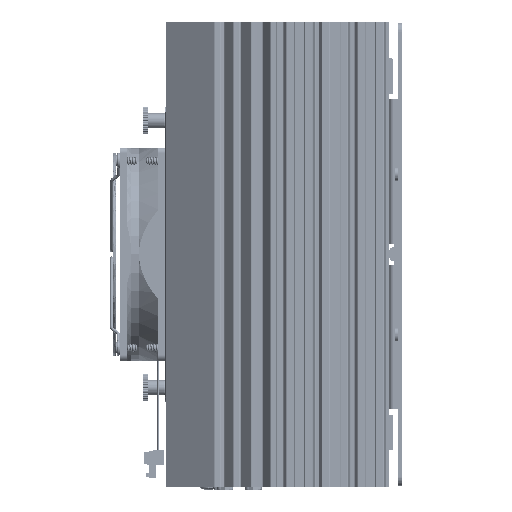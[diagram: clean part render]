
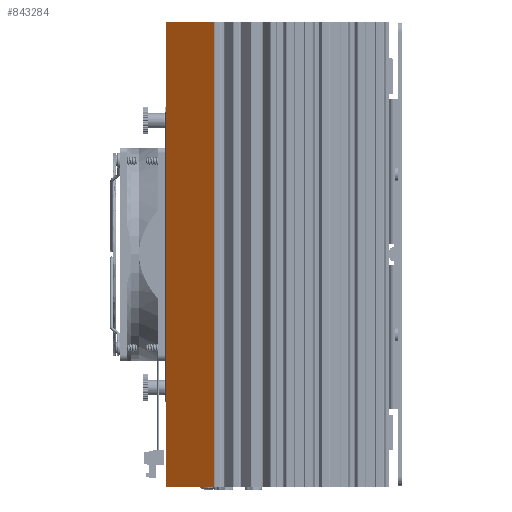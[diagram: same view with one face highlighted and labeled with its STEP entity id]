
A CAD part, left-side view. The second image highlights one B-rep face of the part: STEP entity #843284.
In plain terms, the highlighted planar face has unit normal (-0.819, 0.574, 0).
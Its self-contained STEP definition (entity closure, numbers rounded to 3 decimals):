
#112416 = DIRECTION ( 'NONE',  ( -0.574, -0.819, 0. ) ) ;
#119748 = CARTESIAN_POINT ( 'NONE',  ( -113.398, -7.532, 130.5 ) ) ;
#134517 = VERTEX_POINT ( 'NONE', #420289 ) ;
#154014 = DIRECTION ( 'NONE',  ( 0.574, 0.819, 0. ) ) ;
#170142 = VERTEX_POINT ( 'NONE', #119748 ) ;
#174217 = VECTOR ( 'NONE', #374042, 1000. ) ;
#188758 = LINE ( 'NONE', #504450, #415528 ) ;
#190779 = EDGE_CURVE ( 'NONE', #134517, #716517, #855185, .T. ) ;
#230375 = EDGE_LOOP ( 'NONE', ( #498601, #415186, #720326, #370817 ) ) ;
#243515 = AXIS2_PLACEMENT_3D ( 'NONE', #433995, #548949, #154014 ) ;
#370817 = ORIENTED_EDGE ( 'NONE', *, *, #190779, .T. ) ;
#372479 = LINE ( 'NONE', #639734, #795325 ) ;
#374042 = DIRECTION ( 'NONE',  ( -0.574, -0.819, 0. ) ) ;
#415186 = ORIENTED_EDGE ( 'NONE', *, *, #844915, .T. ) ;
#415528 = VECTOR ( 'NONE', #112416, 1000. ) ;
#416135 = FACE_OUTER_BOUND ( 'NONE', #230375, .T. ) ;
#420289 = CARTESIAN_POINT ( 'NONE',  ( -94.42, 19.571, 130.5 ) ) ;
#433995 = CARTESIAN_POINT ( 'NONE',  ( -94.26, 19.8, 130.5 ) ) ;
#481346 = EDGE_CURVE ( 'NONE', #134517, #170142, #188758, .T. ) ;
#482841 = PLANE ( 'NONE',  #243515 ) ;
#488945 = EDGE_CURVE ( 'NONE', #716517, #662764, #617577, .T. ) ;
#498601 = ORIENTED_EDGE ( 'NONE', *, *, #488945, .T. ) ;
#504450 = CARTESIAN_POINT ( 'NONE',  ( -94.26, 19.8, 130.5 ) ) ;
#548949 = DIRECTION ( 'NONE',  ( 0.819, -0.574, 0. ) ) ;
#617577 = LINE ( 'NONE', #772050, #174217 ) ;
#628485 = CARTESIAN_POINT ( 'NONE',  ( -94.42, 19.571, 130.5 ) ) ;
#639734 = CARTESIAN_POINT ( 'NONE',  ( -113.398, -7.532, 130.5 ) ) ;
#662764 = VERTEX_POINT ( 'NONE', #834683 ) ;
#679676 = VECTOR ( 'NONE', #697661, 1000. ) ;
#697661 = DIRECTION ( 'NONE',  ( 0., 0., -1. ) ) ;
#703184 = DIRECTION ( 'NONE',  ( 0., 0., 1. ) ) ;
#716517 = VERTEX_POINT ( 'NONE', #803400 ) ;
#720326 = ORIENTED_EDGE ( 'NONE', *, *, #481346, .F. ) ;
#772050 = CARTESIAN_POINT ( 'NONE',  ( -94.26, 19.8, -130.5 ) ) ;
#795325 = VECTOR ( 'NONE', #703184, 1000. ) ;
#803400 = CARTESIAN_POINT ( 'NONE',  ( -94.42, 19.571, -130.5 ) ) ;
#834683 = CARTESIAN_POINT ( 'NONE',  ( -113.398, -7.532, -130.5 ) ) ;
#843284 = ADVANCED_FACE ( 'NONE', ( #416135 ), #482841, .F. ) ;
#844915 = EDGE_CURVE ( 'NONE', #662764, #170142, #372479, .T. ) ;
#855185 = LINE ( 'NONE', #628485, #679676 ) ;
